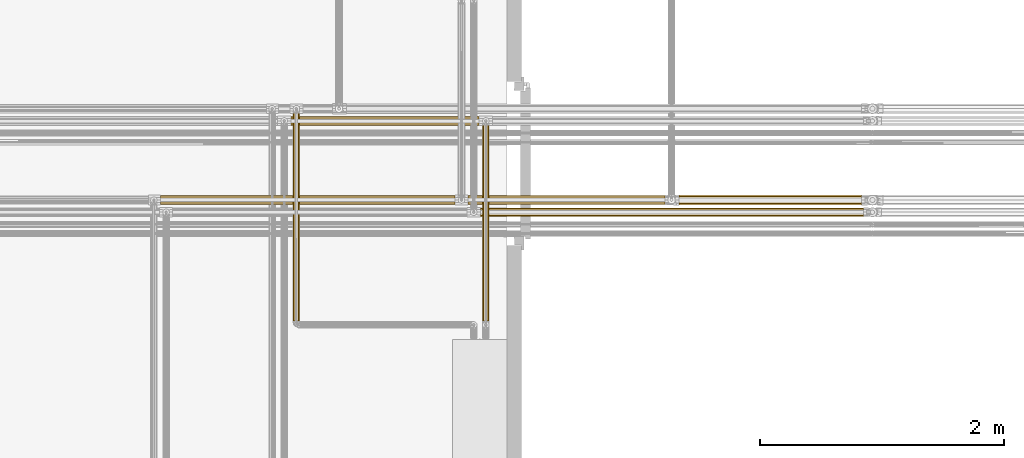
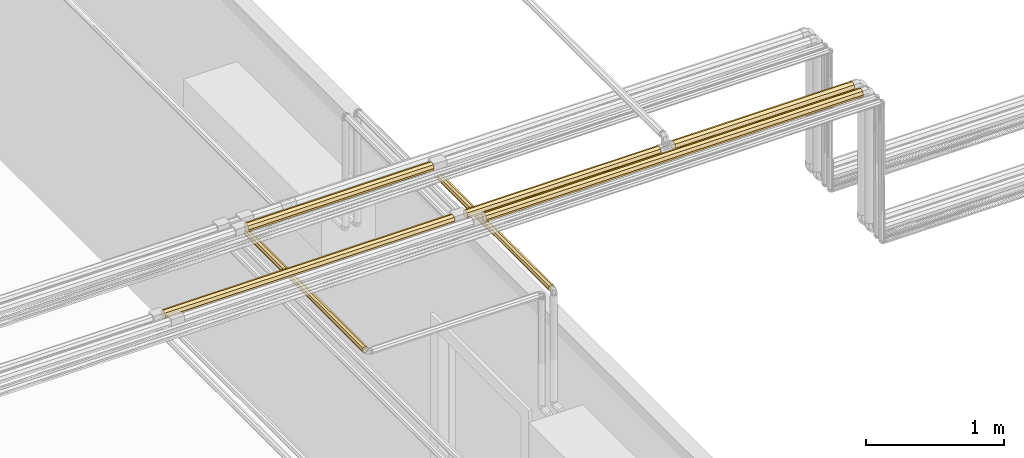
# One storey, part 105 of 652: 7 coverings.
"""IFC2X3 building model written with IfcOpenShell, lengths in millimetres."""

from ifc_helpers import new_model, entity, si_unit, converted_unit, direction, frame, origin, place, context, subcontext, project, spatial, faceted_brep, material, type_object, element, save


model = new_model("IFC2X3")

# Units and contexts
model_context = context("Model", 3, precision=0.01, world=frame((0.0, 0.0, 308426.39999999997)), true_north=direction((6.123233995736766e-17, 1.0)))
plan_context = context("Plan", 3, precision=0.01, world=frame((0.0, 0.0, 308426.39999999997)), true_north=direction((6.123233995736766e-17, 1.0)))
body_context = subcontext(model_context, "Body", "Model", "MODEL_VIEW")
ifc_project = project(units=[si_unit("LENGTHUNIT", "METRE", prefix="MILLI"), si_unit("AREAUNIT", "SQUARE_METRE"), si_unit("VOLUMEUNIT", "CUBIC_METRE"), converted_unit("PLANEANGLEUNIT", "DEGREE", entity("IfcPlaneAngleMeasure", 0.017453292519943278), si_unit("PLANEANGLEUNIT", "RADIAN"), dimensions=[0, 0, 0, 0, 0, 0, 0])], contexts=[model_context, plan_context])

# Site, building, storey
site_placement = place(None, origin())
site = spatial("IfcSite", under=ifc_project, at=site_placement, Name="Default", CompositionType="ELEMENT")
building_placement = place(site_placement, origin())
building = spatial("IfcBuilding", under=site, at=building_placement, CompositionType="ELEMENT")
storey_placement = place(building_placement, frame((0.0, 0.0, 1730.6999999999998)))
storey = spatial("IfcBuildingStorey", under=building, at=storey_placement, Name="EG_Produktion_FFB", CompositionType="ELEMENT", Elevation=1730.6999999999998)

# Coverings
ifc_material = material(Name="Dämmung - Armaflex-Schlauch")
covering_type = type_object("IfcCoveringType", Name="Rohrdämmung außen:Armaflex-Schlauch", PredefinedType="INSULATION")
covering_1_placement = place(storey_placement, frame((66279.93801735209, 40736.94222776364, 3761.9422277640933)))
element("IfcCovering", 1, at=covering_1_placement, inside=storey, type_object=covering_type, material=ifc_material, Name="Rohrdämmung außen:Armaflex-Schlauch", ObjectType="Rohrdämmung außen:Armaflex-Schlauch", PredefinedType="INSULATION", context=body_context, shape_type="Brep", body=[
    faceted_brep([(0.0, 1.5952722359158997, 38.057772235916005), (0.0, 4.140157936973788, 44.20166981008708), (0.0, 6.935081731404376, 50.949212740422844), (0.0, 9.604986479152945, 57.3949329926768), (0.0, 12.274891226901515, 63.84065324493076), (0.0, 18.72061147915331, 66.51055799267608), (0.0, 25.166331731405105, 69.18046274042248), (0.0, 31.612051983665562, 71.85036748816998), (0.0, 38.057772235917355, 74.52027223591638), (0.0, 44.20166981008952, 71.9753865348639), (0.0, 50.94921274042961, 69.18046274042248), (0.0, 57.394932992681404, 66.51055799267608), (0.0, 63.8406532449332, 63.84065324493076), (0.0, 66.51055799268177, 57.39493299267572), (0.0, 69.18046274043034, 50.949212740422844), (0.0, 71.8503674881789, 44.50349248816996), (0.0, 74.52027223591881, 38.057772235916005), (0.0, 71.8503674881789, 31.61205198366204), (0.0, 69.18046274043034, 25.166331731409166), (0.0, 66.51055799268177, 18.720611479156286), (0.0, 63.8406532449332, 12.274891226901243), (0.0, 57.394932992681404, 9.604986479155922), (0.0, 50.94921274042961, 6.935081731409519), (0.0, 44.50349248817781, 4.265176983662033), (0.0, 38.057772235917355, 1.595272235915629), (0.0, 31.913874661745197, 4.140157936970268), (0.0, 25.166331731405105, 6.935081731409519), (0.0, 18.72061147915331, 9.604986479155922), (0.0, 12.274891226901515, 12.274891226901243), (0.0, 9.604986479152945, 18.720611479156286), (0.0, 6.935081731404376, 25.166331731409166), (0.0, 4.265176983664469, 31.61205198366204), (3145.9777326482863, 18.72061147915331, 9.604986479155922), (3145.9777326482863, 25.166331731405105, 6.935081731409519), (3145.9777326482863, 31.612051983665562, 4.265176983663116), (3145.9777326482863, 38.057772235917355, 1.595272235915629), (3145.9777326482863, 44.201669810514, 4.140157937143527), (3145.9777326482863, 50.34556738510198, 6.685043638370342), (3145.977732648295, 57.09311031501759, 9.479967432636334), (3145.9777326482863, 63.8406532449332, 12.274891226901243), (3145.9777326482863, 66.51055799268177, 18.720611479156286), (3145.9777326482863, 69.18046274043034, 25.166331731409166), (3145.9777326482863, 71.8503674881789, 31.61205198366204), (3145.9777326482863, 74.52027223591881, 38.057772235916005), (3145.9777326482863, 71.97538653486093, 44.20166981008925), (3145.9777326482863, 69.4305008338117, 50.345567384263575), (3145.9777326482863, 66.63557703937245, 57.09311031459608), (3145.9777326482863, 63.8406532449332, 63.84065324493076), (3145.9777326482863, 57.394932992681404, 66.51055799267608), (3145.9777326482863, 50.94921274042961, 69.18046274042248), (3145.9777326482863, 44.50349248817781, 71.85036748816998), (3145.9777326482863, 38.057772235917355, 74.52027223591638), (3145.9777326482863, 31.913874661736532, 71.97538653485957), (3145.9777326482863, 25.76997708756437, 69.43050083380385), (3145.9777326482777, 19.022434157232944, 66.63557703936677), (3145.9777326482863, 12.274891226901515, 63.84065324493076), (3145.9777326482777, 9.604986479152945, 57.3949329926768), (3145.9777326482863, 6.935081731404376, 50.949212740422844), (3145.9777326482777, 4.265176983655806, 44.50349248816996), (3145.9777326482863, 1.5952722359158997, 38.057772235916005), (3145.9777326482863, 4.14015793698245, 31.913874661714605), (3145.9777326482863, 6.685043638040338, 25.769977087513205), (3145.9777326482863, 9.479967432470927, 19.022434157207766), (3145.9777326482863, 12.274891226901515, 12.274891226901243)], [[[0, 1, 2, 3, 4, 5, 6, 7, 8, 9, 10, 11, 12, 13, 14, 15, 16, 17, 18, 19, 20, 21, 22, 23, 24, 25, 26, 27, 28, 29, 30, 31]], [[32, 33, 34, 35, 36, 37, 38, 39, 40, 41, 42, 43, 44, 45, 46, 47, 48, 49, 50, 51, 52, 53, 54, 55, 56, 57, 58, 59, 60, 61, 62, 63]], [[41, 40, 39, 20, 19, 18, 17, 16, 43, 42]], [[37, 36, 35, 24, 23, 22, 21, 20, 39, 38]], [[25, 24, 35, 34, 33, 32, 63, 28, 27, 26]], [[28, 63, 62, 61, 60, 59, 0, 31, 30, 29]], [[1, 0, 59, 58, 57, 56, 55, 4, 3, 2]], [[4, 55, 54, 53, 52, 51, 8, 7, 6, 5]], [[9, 8, 51, 50, 49, 48, 47, 12, 11, 10]], [[12, 47, 46, 45, 44, 43, 16, 15, 14, 13]]]),
])
covering_2_placement = place(storey_placement, frame((64724.44724999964, 41486.94067746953, 3838.057772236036)))
element("IfcCovering", 2, at=covering_2_placement, inside=storey, type_object=covering_type, material=ifc_material, Name="Rohrdämmung außen:Armaflex-Schlauch", ObjectType="Rohrdämmung außen:Armaflex-Schlauch", PredefinedType="INSULATION", context=body_context, shape_type="Brep", body=[
    faceted_brep([(1546.5962673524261, 74.52027223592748, -38.057772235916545), (1546.5962673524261, 71.93195816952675, -31.809029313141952), (1546.5962673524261, 69.180462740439, -25.166331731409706), (1546.5962673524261, 66.51055799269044, -18.720611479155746), (1546.5962673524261, 63.84065324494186, -12.274891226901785), (1546.5962673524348, 57.394932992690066, -9.604986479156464), (1546.5962673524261, 50.94921274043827, -6.935081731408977), (1546.5962673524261, 44.503492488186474, -4.265176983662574), (1546.5962673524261, 38.057772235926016, -1.5952722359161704), (1546.5962673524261, 31.809029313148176, -4.183586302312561), (1546.5962673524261, 25.166331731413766, -6.935081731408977), (1546.5962673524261, 18.72061147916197, -9.60498647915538), (1546.5962673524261, 12.274891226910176, -12.274891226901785), (1546.5962673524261, 9.604986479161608, -18.720611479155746), (1546.5962673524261, 6.935081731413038, -25.166331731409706), (1546.5962673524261, 4.265176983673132, -31.612051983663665), (1546.5962673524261, 1.5952722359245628, -38.057772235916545), (1546.5962673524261, 4.265176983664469, -44.50349248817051), (1546.5962673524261, 6.935081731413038, -50.949212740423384), (1546.5962673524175, 9.604986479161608, -57.39493299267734), (1546.5962673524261, 12.274891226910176, -63.8406532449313), (1546.5962673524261, 18.72061147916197, -66.51055799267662), (1546.5962673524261, 25.166331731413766, -69.1804627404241), (1546.5962673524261, 31.612051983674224, -71.85036748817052), (1546.5962673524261, 38.057772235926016, -74.52027223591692), (1546.5962673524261, 44.30651515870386, -71.93195816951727), (1546.5962673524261, 50.94921274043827, -69.1804627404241), (1546.5962673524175, 57.394932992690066, -66.5105579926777), (1546.5962673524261, 63.84065324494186, -63.8406532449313), (1546.5962673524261, 66.51055799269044, -57.39493299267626), (1546.5962673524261, 69.180462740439, -50.949212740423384), (1546.5962673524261, 71.85036748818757, -44.50349248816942), (0.0, 57.39493299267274, -66.5105579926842), (0.0, 50.94921274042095, -69.18046274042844), (0.0, 44.50349248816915, -71.85036748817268), (0.0, 38.057772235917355, -74.5202722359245), (0.0, 31.809029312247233, -71.93195816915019), (0.0, 25.560286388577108, -69.34364410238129), (0.0, 18.91758880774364, -66.5921486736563), (0.0, 12.274891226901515, -63.840653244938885), (0.0, 9.604986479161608, -57.39493299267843), (0.0, 6.935081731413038, -50.94921274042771), (0.0, 4.265176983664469, -44.50349248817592), (0.0, 1.5952722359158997, -38.057772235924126), (0.0, 4.183586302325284, -31.809029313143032), (0.0, 6.7719003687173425, -25.56028639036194), (0.0, 9.523395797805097, -18.917588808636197), (0.0, 12.274891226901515, -12.274891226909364), (0.0, 18.72061147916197, -9.604986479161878), (0.0, 25.166331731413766, -6.935081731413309), (0.0, 31.612051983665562, -4.26517698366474), (0.0, 38.057772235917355, -1.5952722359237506), (0.0, 44.30651515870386, -4.183586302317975), (0.0, 50.555258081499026, -6.77190036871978), (0.0, 57.19795566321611, -9.523395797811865), (0.0, 63.8406532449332, -12.274891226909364), (0.0, 66.51055799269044, -18.72061147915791), (0.0, 69.180462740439, -25.166331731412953), (0.0, 71.8503674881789, -31.612051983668), (0.0, 74.52027223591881, -38.057772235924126), (0.0, 71.93195816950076, -44.30651515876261), (0.0, 69.34364410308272, -50.55525808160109), (0.0, 66.59214867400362, -57.19795566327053), (0.0, 63.8406532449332, -63.840653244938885)], [[[0, 1, 2, 3, 4, 5, 6, 7, 8, 9, 10, 11, 12, 13, 14, 15, 16, 17, 18, 19, 20, 21, 22, 23, 24, 25, 26, 27, 28, 29, 30, 31]], [[32, 33, 34, 35, 36, 37, 38, 39, 40, 41, 42, 43, 44, 45, 46, 47, 48, 49, 50, 51, 52, 53, 54, 55, 56, 57, 58, 59, 60, 61, 62, 63]], [[41, 40, 39, 20, 19, 18, 17, 16, 43, 42]], [[37, 36, 35, 24, 23, 22, 21, 20, 39, 38]], [[25, 24, 35, 34, 33, 32, 63, 28, 27, 26]], [[28, 63, 62, 61, 60, 59, 0, 31, 30, 29]], [[1, 0, 59, 58, 57, 56, 55, 4, 3, 2]], [[4, 55, 54, 53, 52, 51, 8, 7, 6, 5]], [[9, 8, 51, 50, 49, 48, 47, 12, 11, 10]], [[12, 47, 46, 45, 44, 43, 16, 15, 14, 13]]]),
])
covering_3_placement = place(storey_placement, frame((66179.93801735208, 40836.94222776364, 3761.942227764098)))
element("IfcCovering", 3, at=covering_3_placement, inside=storey, type_object=covering_type, material=ifc_material, Name="Rohrdämmung außen:Armaflex-Schlauch", ObjectType="Rohrdämmung außen:Armaflex-Schlauch", PredefinedType="INSULATION", context=body_context, shape_type="Brep", body=[
    faceted_brep([(0.0, 1.5952722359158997, 38.05777223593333), (0.0, 4.0730144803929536, 44.039571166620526), (0.0, 6.935081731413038, 50.94921274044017), (0.0, 9.604986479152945, 57.39493299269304), (0.0, 12.274891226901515, 63.840653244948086), (0.0, 18.72061147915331, 66.5105579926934), (0.0, 25.166331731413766, 69.18046274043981), (0.0, 31.612051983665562, 71.8503674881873), (0.0, 38.057772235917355, 74.5202722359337), (0.0, 44.03957116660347, 72.04252999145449), (0.0, 50.94921274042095, 69.18046274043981), (0.0, 57.394932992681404, 66.5105579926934), (0.0, 63.8406532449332, 63.840653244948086), (0.0, 66.51055799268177, 57.39493299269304), (0.0, 69.18046274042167, 50.94921274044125), (0.0, 71.85036748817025, 44.50349248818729), (0.0, 74.52027223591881, 38.05777223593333), (0.0, 71.85036748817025, 31.61205198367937), (0.0, 69.18046274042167, 25.16633173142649), (0.0, 66.51055799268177, 18.720611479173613), (0.0, 63.8406532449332, 12.27489122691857), (0.0, 57.39493299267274, 9.604986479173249), (0.0, 50.94921274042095, 6.935081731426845), (0.0, 44.50349248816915, 4.265176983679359), (0.0, 38.057772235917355, 1.595272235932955), (0.0, 32.07597330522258, 4.073014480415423), (0.0, 25.166331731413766, 6.935081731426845), (0.0, 18.72061147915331, 9.604986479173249), (0.0, 12.274891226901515, 12.27489122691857), (0.0, 9.604986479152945, 18.720611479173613), (0.0, 6.935081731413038, 25.16633173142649), (0.0, 4.265176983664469, 31.61205198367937), (1615.6147326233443, 18.72061147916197, 9.604986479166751), (1615.6147326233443, 25.166331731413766, 6.935081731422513), (1615.6147326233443, 31.612051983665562, 4.265176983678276), (1615.6147326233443, 38.057772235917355, 1.595272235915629), (1615.6147326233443, 44.03957116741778, 4.073014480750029), (1615.6147326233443, 50.02137009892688, 6.550756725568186), (1615.6147326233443, 56.93101167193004, 9.412823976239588), (1615.6147326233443, 63.8406532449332, 12.274891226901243), (1615.6147326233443, 66.5105579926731, 18.720611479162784), (1615.6147326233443, 69.18046274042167, 25.166331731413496), (1615.6147326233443, 71.85036748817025, 31.61205198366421), (1615.6147326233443, 74.52027223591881, 38.057772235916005), (1615.6147326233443, 72.04252999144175, 44.03957116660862), (1615.6147326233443, 69.56478774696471, 50.02137009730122), (1615.6147326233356, 66.70272049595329, 56.931011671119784), (1615.6147326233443, 63.8406532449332, 63.84065324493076), (1615.6147326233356, 57.394932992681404, 66.51055799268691), (1615.6147326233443, 50.94921274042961, 69.18046274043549), (1615.614732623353, 44.50349248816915, 71.85036748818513), (1615.6147326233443, 38.057772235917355, 74.52027223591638), (1615.6147326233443, 32.075973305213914, 72.0425299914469), (1615.6147326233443, 26.094174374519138, 69.56478774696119), (1615.614732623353, 19.184532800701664, 66.70272049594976), (1615.6147326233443, 12.274891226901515, 63.84065324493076), (1615.6147326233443, 9.604986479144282, 57.394932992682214), (1615.6147326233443, 6.935081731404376, 50.94921274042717), (1615.6147326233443, 4.265176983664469, 44.50349248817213), (1615.6147326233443, 1.5952722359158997, 38.057772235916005), (1615.6147326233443, 4.0730144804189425, 32.075973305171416), (1615.6147326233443, 6.5507567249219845, 26.094174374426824), (1615.6147326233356, 9.412823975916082, 19.184532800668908), (1615.6147326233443, 12.274891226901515, 12.274891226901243)], [[[0, 1, 2, 3, 4, 5, 6, 7, 8, 9, 10, 11, 12, 13, 14, 15, 16, 17, 18, 19, 20, 21, 22, 23, 24, 25, 26, 27, 28, 29, 30, 31]], [[32, 33, 34, 35, 36, 37, 38, 39, 40, 41, 42, 43, 44, 45, 46, 47, 48, 49, 50, 51, 52, 53, 54, 55, 56, 57, 58, 59, 60, 61, 62, 63]], [[41, 40, 39, 20, 19, 18, 17, 16, 43, 42]], [[37, 36, 35, 24, 23, 22, 21, 20, 39, 38]], [[25, 24, 35, 34, 33, 32, 63, 28, 27, 26]], [[28, 63, 62, 61, 60, 59, 0, 31, 30, 29]], [[1, 0, 59, 58, 57, 56, 55, 4, 3, 2]], [[4, 55, 54, 53, 52, 51, 8, 7, 6, 5]], [[9, 8, 51, 50, 49, 48, 47, 12, 11, 10]], [[12, 47, 46, 45, 44, 43, 16, 15, 14, 13]]]),
])
covering_4_placement = place(storey_placement, frame((63654.44724999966, 40836.94222776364, 3761.942227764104)))
element("IfcCovering", 4, at=covering_4_placement, inside=storey, type_object=covering_type, material=ifc_material, Name="Rohrdämmung außen:Armaflex-Schlauch", ObjectType="Rohrdämmung außen:Armaflex-Schlauch", PredefinedType="INSULATION", context=body_context, shape_type="Brep", body=[
    faceted_brep([(2416.596267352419, 74.52027223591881, 38.05777223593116), (2416.596267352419, 71.20728452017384, 46.0560321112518), (2416.596267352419, 69.18046274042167, 50.949212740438), (2416.5962673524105, 66.5105579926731, 57.394932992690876), (2416.596267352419, 63.8406532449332, 63.84065324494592), (2416.5962673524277, 57.39493299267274, 66.51055799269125), (2416.596267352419, 50.94921274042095, 69.18046274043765), (2416.5962673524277, 44.50349248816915, 71.85036748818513), (2416.596267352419, 38.057772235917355, 74.52027223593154), (2416.5962673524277, 30.059512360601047, 71.20728452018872), (2416.596267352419, 25.166331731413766, 69.18046274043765), (2416.5962673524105, 18.72061147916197, 66.51055799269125), (2416.596267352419, 12.274891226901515, 63.84065324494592), (2416.5962673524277, 9.604986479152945, 57.39493299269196), (2416.596267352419, 6.935081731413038, 50.949212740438), (2416.5962673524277, 4.265176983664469, 44.503492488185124), (2416.596267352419, 1.5952722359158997, 38.05777223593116), (2416.596267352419, 4.265176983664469, 31.6120519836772), (2416.596267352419, 6.935081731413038, 25.166331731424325), (2416.596267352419, 9.604986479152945, 18.720611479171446), (2416.596267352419, 12.274891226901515, 12.274891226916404), (2416.596267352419, 18.72061147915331, 9.604986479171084), (2416.596267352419, 25.166331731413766, 6.935081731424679), (2416.596267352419, 31.612051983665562, 4.265176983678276), (2416.596267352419, 38.057772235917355, 1.5952722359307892), (2416.5962673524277, 46.056032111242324, 4.908259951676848), (2416.596267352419, 50.94921274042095, 6.935081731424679), (2416.5962673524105, 57.39493299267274, 9.604986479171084), (2416.596267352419, 63.8406532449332, 12.274891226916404), (2416.5962673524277, 66.5105579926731, 18.720611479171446), (2416.596267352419, 69.18046274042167, 25.166331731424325), (2416.5962673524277, 71.85036748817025, 31.612051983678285), (0.0, 57.394932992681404, 9.604986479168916), (0.0, 50.94921274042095, 6.935081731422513), (0.0, 44.50349248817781, 4.26517698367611), (0.0, 38.057772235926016, 1.595272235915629), (0.0, 30.059512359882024, 4.908259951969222), (0.0, 22.061252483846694, 8.221247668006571), (0.0, 12.274891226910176, 12.274891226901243), (0.0, 9.604986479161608, 18.720611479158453), (0.0, 6.935081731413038, 25.166331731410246), (0.0, 4.265176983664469, 31.612051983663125), (0.0, 1.5952722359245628, 38.057772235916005), (0.0, 4.908259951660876, 46.056032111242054), (0.0, 8.221247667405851, 54.05429198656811), (0.0, 12.274891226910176, 63.84065324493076), (0.0, 18.72061147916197, 66.51055799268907), (0.0, 25.166331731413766, 69.18046274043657), (0.0, 31.612051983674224, 71.85036748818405), (0.0, 38.057772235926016, 74.52027223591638), (0.0, 46.05603211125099, 71.20728452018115), (0.0, 54.05429198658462, 67.89429680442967), (0.0, 63.84065324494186, 63.84065324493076), (0.0, 66.51055799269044, 57.39493299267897), (0.0, 69.18046274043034, 50.949212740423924), (0.0, 71.85036748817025, 44.50349248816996), (0.0, 74.52027223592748, 38.057772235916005), (0.0, 71.2072845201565, 30.05951236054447), (0.0, 67.89429680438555, 22.061252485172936), (0.0, 63.84065324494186, 12.274891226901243)], [[[0, 1, 2, 3, 4, 5, 6, 7, 8, 9, 10, 11, 12, 13, 14, 15, 16, 17, 18, 19, 20, 21, 22, 23, 24, 25, 26, 27, 28, 29, 30, 31]], [[32, 33, 34, 35, 36, 37, 38, 39, 40, 41, 42, 43, 44, 45, 46, 47, 48, 49, 50, 51, 52, 53, 54, 55, 56, 57, 58, 59]], [[40, 39, 38, 20, 19, 18, 17, 16, 42, 41]], [[38, 37, 36, 35, 24, 23, 22, 21, 20]], [[56, 0, 31, 30, 29, 28, 59, 58, 57]], [[27, 26, 25, 24, 35, 34, 33, 32, 59, 28]], [[49, 8, 7, 6, 5, 4, 52, 51, 50]], [[3, 2, 1, 0, 56, 55, 54, 53, 52, 4]], [[42, 16, 15, 14, 13, 12, 45, 44, 43]], [[11, 10, 9, 8, 49, 48, 47, 46, 45, 12]]]),
])
covering_5_placement = place(storey_placement, frame((67913.14674997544, 40833.767227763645, 3758.767227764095)))
element("IfcCovering", 5, at=covering_5_placement, inside=storey, type_object=covering_type, material=ifc_material, Name="Rohrdämmung außen:Armaflex-Schlauch", ObjectType="Rohrdämmung außen:Armaflex-Schlauch", PredefinedType="INSULATION", context=body_context, shape_type="Brep", body=[
    faceted_brep([(1498.7355000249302, 80.87027223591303, 41.232772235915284), (1498.7355000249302, 77.84294996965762, 48.54137470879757), (1498.7355000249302, 75.0654947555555, 55.24674475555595), (1498.7355000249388, 72.16310601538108, 62.25373101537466), (1498.7355000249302, 69.26071727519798, 69.26071727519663), (1498.7355000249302, 62.25373101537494, 72.16310601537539), (1498.7355000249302, 55.246744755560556, 75.06549475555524), (1498.7355000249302, 48.54137470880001, 77.8429499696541), (1498.7355000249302, 41.23277223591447, 80.87027223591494), (1498.7355000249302, 33.9241697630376, 77.8429499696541), (1498.7355000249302, 27.218799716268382, 75.06549475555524), (1498.7355000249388, 20.211813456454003, 72.16310601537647), (1498.7355000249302, 13.204827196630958, 69.26071727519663), (1498.7355000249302, 10.302438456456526, 62.25373101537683), (1498.7355000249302, 7.400049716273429, 55.24674475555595), (1498.7355000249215, 4.622594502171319, 48.5413747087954), (1498.7355000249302, 1.5952722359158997, 41.232772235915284), (1498.7355000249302, 4.497660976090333, 34.22578597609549), (1498.7355000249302, 7.400049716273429, 27.21879971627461), (1498.7355000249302, 10.302438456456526, 20.211813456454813), (1498.7355000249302, 13.204827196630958, 13.204827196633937), (1498.7355000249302, 20.211813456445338, 10.302438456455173), (1498.7355000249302, 27.218799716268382, 7.4000497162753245), (1498.7355000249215, 33.92416976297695, 4.622594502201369), (1498.7355000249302, 41.23277223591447, 1.595272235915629), (1498.7355000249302, 48.54137470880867, 4.622594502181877), (1498.7355000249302, 55.246744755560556, 7.4000497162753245), (1498.7355000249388, 62.25373101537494, 10.302438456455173), (1498.7355000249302, 69.26071727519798, 13.204827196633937), (1498.7355000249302, 72.1631060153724, 20.211813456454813), (1498.7355000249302, 75.0654947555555, 27.21879971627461), (1498.7355000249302, 77.84294996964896, 33.92416976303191), (0.0, 62.25373101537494, 10.302438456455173), (0.0, 55.246744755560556, 7.4000497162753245), (0.0, 48.23975849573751, 4.497660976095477), (0.0, 41.23277223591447, 1.595272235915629), (0.0, 33.924169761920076, 4.622594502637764), (0.0, 26.615567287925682, 7.649916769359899), (0.0, 19.910197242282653, 10.427371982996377), (0.0, 13.204827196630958, 13.204827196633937), (0.0, 10.302438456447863, 20.211813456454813), (0.0, 7.400049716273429, 27.21879971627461), (0.0, 4.497660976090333, 34.22578597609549), (0.0, 1.5952722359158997, 41.232772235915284), (0.0, 4.6225945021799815, 48.541374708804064), (0.0, 7.649916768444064, 55.84997718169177), (0.0, 10.427371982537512, 62.55534722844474), (0.0, 13.204827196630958, 69.26071727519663), (0.0, 20.211813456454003, 72.16310601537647), (0.0, 27.218799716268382, 75.06549475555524), (0.0, 34.22578597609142, 77.96788349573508), (0.0, 41.23277223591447, 80.87027223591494), (0.0, 48.54137470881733, 77.84294996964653), (0.0, 55.84997718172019, 74.81562770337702), (0.0, 62.55534722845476, 72.03817248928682), (0.0, 69.26071727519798, 69.26071727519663), (0.0, 72.1631060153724, 62.25373101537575), (0.0, 75.0654947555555, 55.24674475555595), (0.0, 77.9678834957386, 48.239758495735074), (0.0, 80.87027223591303, 41.232772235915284), (0.0, 77.84294996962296, 33.924169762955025), (0.0, 74.81562770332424, 26.615567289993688), (0.0, 72.03817248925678, 19.91019724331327), (0.0, 69.26071727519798, 13.204827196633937)], [[[0, 1, 2, 3, 4, 5, 6, 7, 8, 9, 10, 11, 12, 13, 14, 15, 16, 17, 18, 19, 20, 21, 22, 23, 24, 25, 26, 27, 28, 29, 30, 31]], [[32, 33, 34, 35, 36, 37, 38, 39, 40, 41, 42, 43, 44, 45, 46, 47, 48, 49, 50, 51, 52, 53, 54, 55, 56, 57, 58, 59, 60, 61, 62, 63]], [[41, 40, 39, 20, 19, 18, 17, 16, 43, 42]], [[20, 39, 38, 37, 36, 35, 24, 23, 22, 21]], [[24, 35, 34, 33, 32, 63, 28, 27, 26, 25]], [[28, 63, 62, 61, 60, 59, 0, 31, 30, 29]], [[0, 59, 58, 57, 56, 55, 4, 3, 2, 1]], [[4, 55, 54, 53, 52, 51, 8, 7, 6, 5]], [[8, 51, 50, 49, 48, 47, 12, 11, 10, 9]], [[12, 47, 46, 45, 44, 43, 16, 15, 14, 13]]]),
])
covering_6_placement = place(storey_placement, frame((66296.95799511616, 39881.98374999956, 3671.4672277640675)))
element("IfcCovering", 6, at=covering_6_placement, inside=storey, type_object=covering_type, material=ifc_material, Name="Rohrdämmung außen:Armaflex-Schlauch", ObjectType="Rohrdämmung außen:Armaflex-Schlauch", PredefinedType="INSULATION", context=body_context, shape_type="Brep", body=[
    faceted_brep([(9.485083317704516, 1611.0309497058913, 9.485083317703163), (7.512630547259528, 1611.0309497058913, 14.247005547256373), (5.54017777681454, 1611.0309497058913, 19.008927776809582), (3.567725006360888, 1611.0309497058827, 23.77085000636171), (1.5952722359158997, 1611.0309497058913, 28.532772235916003), (3.173088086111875, 1611.0309497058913, 32.3419566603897), (5.54017777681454, 1611.0309497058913, 38.05661669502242), (7.512630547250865, 1611.0309497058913, 42.818538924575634), (9.485083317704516, 1611.0309497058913, 47.58046115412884), (14.247005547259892, 1611.0309497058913, 49.552913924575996), (19.008927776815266, 1611.0309497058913, 51.525366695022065), (23.77085000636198, 1611.0309497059, 53.49781946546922), (28.532772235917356, 1611.0309497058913, 55.470272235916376), (32.34195666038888, 1611.0309497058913, 53.89245638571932), (38.05661669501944, 1611.0309497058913, 51.525366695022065), (42.818538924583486, 1611.0309497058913, 49.552913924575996), (47.5804611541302, 1611.0309497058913, 47.58046115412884), (49.55291392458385, 1611.0309497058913, 42.818538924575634), (51.525366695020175, 1611.0309497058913, 38.05661669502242), (53.49781946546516, 1611.0309497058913, 33.294694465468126), (55.47027223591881, 1611.0309497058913, 28.532772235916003), (53.497819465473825, 1611.0309497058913, 23.770850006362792), (51.525366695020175, 1611.0309497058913, 19.008927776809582), (49.552913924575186, 1611.0309497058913, 14.247005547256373), (47.5804611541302, 1611.0309497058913, 9.485083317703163), (42.81853892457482, 1611.0309497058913, 7.512630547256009), (38.05661669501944, 1611.0309497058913, 5.540177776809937), (33.29469446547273, 1611.0309497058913, 3.567725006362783), (28.532772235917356, 1611.0309497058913, 1.595272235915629), (24.723587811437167, 1611.0309497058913, 3.17308808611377), (19.008927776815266, 1611.0309497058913, 5.540177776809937), (14.247005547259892, 1611.0309497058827, 7.512630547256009), (47.5804611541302, 0.0, 47.580461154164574), (42.818538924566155, 0.0, 49.55291392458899), (38.05661669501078, 0.0, 51.52536669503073), (33.29469446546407, 0.0, 53.497819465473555), (28.532772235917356, 0.0, 55.47027223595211), (20.91440338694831, 0.0, 52.31464053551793), (15.199743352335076, 0.0, 49.94755084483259), (9.485083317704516, 0.0, 47.580461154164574), (7.512630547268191, 0.0, 42.81853892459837), (5.54017777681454, 0.0, 38.05661669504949), (3.567725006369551, 0.0, 33.29469446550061), (1.5952722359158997, 0.0, 28.532772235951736), (4.750903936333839, 0.0, 20.914403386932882), (7.117993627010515, 0.0, 15.199743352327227), (9.485083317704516, 0.0, 9.485083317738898), (14.247005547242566, 0.0, 7.512630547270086), (19.008927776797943, 0.0, 5.5401777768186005), (23.770850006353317, 0.0, 3.5677250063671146), (28.532772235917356, 0.0, 1.5952722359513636), (36.151141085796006, 0.0, 4.750903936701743), (41.8658011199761, 0.0, 7.117993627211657), (47.5804611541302, 0.0, 9.485083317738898), (49.55291392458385, 0.0, 14.247005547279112), (51.5253666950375, 0.0, 19.008927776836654), (53.497819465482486, 0.0, 23.770850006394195), (55.47027223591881, 0.0, 28.532772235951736), (52.3146405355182, 0.0, 36.15114108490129), (49.94755084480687, 0.0, 41.86580111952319)], [[[0, 1, 2, 3, 4, 5, 6, 7, 8, 9, 10, 11, 12, 13, 14, 15, 16, 17, 18, 19, 20, 21, 22, 23, 24, 25, 26, 27, 28, 29, 30, 31]], [[32, 33, 34, 35, 36, 37, 38, 39, 40, 41, 42, 43, 44, 45, 46, 47, 48, 49, 50, 51, 52, 53, 54, 55, 56, 57, 58, 59]], [[55, 54, 53, 24, 23, 22, 21, 20, 57, 56]], [[51, 50, 28, 27, 26, 25, 24, 53, 52]], [[48, 47, 46, 0, 31, 30, 29, 28, 50, 49]], [[0, 46, 45, 44, 43, 4, 3, 2, 1]], [[41, 40, 39, 8, 7, 6, 5, 4, 43, 42]], [[8, 39, 38, 37, 36, 12, 11, 10, 9]], [[34, 33, 32, 16, 15, 14, 13, 12, 36, 35]], [[16, 32, 59, 58, 57, 20, 19, 18, 17]]]),
])
covering_7_placement = place(storey_placement, frame((64741.46722776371, 39881.983749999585, 3671.4672277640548)))
element("IfcCovering", 7, at=covering_7_placement, inside=storey, type_object=covering_type, material=ifc_material, Name="Rohrdämmung außen:Armaflex-Schlauch", ObjectType="Rohrdämmung außen:Armaflex-Schlauch", PredefinedType="INSULATION", context=body_context, shape_type="Brep", body=[
    faceted_brep([(9.485083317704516, 0.0, 47.580461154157), (7.512630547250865, 0.0, 42.818538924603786), (5.540177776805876, 0.0, 38.05661669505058), (3.567725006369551, 0.0, 33.294694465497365), (1.5952722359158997, 0.0, 28.532772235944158), (3.567725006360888, 0.0, 23.770850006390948), (5.540177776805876, 0.0, 19.008927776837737), (7.512630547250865, 0.0, 14.247005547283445), (9.485083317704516, 0.0, 9.485083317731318), (14.247005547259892, 0.0, 7.5126305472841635), (19.008927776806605, 0.0, 5.5401777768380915), (23.77085000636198, 0.0, 3.567725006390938), (28.532772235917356, 0.0, 1.5952722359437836), (32.11933155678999, 0.0, 3.080873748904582), (38.056616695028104, 0.0, 5.5401777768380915), (42.81853892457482, 0.0, 7.5126305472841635), (47.5804611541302, 0.0, 9.485083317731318), (49.552913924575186, 0.0, 14.247005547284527), (51.525366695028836, 0.0, 19.008927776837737), (53.49781946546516, 0.0, 23.770850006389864), (55.47027223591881, 0.0, 28.532772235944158), (53.984670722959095, 0.0, 32.11933155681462), (51.525366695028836, 0.0, 38.05661669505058), (49.552913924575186, 0.0, 42.818538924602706), (47.5804611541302, 0.0, 47.580461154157), (42.81853892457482, 0.0, 49.55291392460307), (38.056616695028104, 0.0, 51.525366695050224), (33.29469446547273, 0.0, 53.49781946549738), (28.532772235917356, 0.0, 55.47027223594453), (24.94621291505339, 0.0, 53.984670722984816), (19.008927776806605, 0.0, 51.525366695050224), (14.247005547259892, 0.0, 49.55291392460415), (47.58046115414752, 1711.0309497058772, 9.485083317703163), (42.81853892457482, 1711.0309497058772, 7.5126305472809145), (38.056616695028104, 1711.0309497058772, 5.5401777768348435), (33.29469446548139, 1711.0309497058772, 3.567725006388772), (28.532772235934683, 1711.0309497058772, 1.595272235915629), (21.359653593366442, 1711.0309497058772, 4.566475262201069), (15.422368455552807, 1711.0309497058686, 7.025779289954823), (9.485083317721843, 1711.0309497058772, 9.485083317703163), (7.512630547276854, 1711.0309497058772, 14.247005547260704), (5.540177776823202, 1711.0309497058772, 19.008927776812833), (3.567725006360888, 1711.0309497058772, 23.770850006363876), (1.5952722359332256, 1711.0309497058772, 28.532772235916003), (4.566475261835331, 1711.0309497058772, 35.70589087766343), (7.025779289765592, 1711.0309497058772, 41.64317601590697), (9.485083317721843, 1711.0309497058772, 47.58046115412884), (14.247005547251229, 1711.0309497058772, 49.55291392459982), (19.008927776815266, 1711.0309497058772, 51.525366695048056), (23.770850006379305, 1711.0309497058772, 53.49781946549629), (28.532772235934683, 1711.0309497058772, 55.470272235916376), (35.7058908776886, 1711.0309497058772, 52.4990692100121), (41.643176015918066, 1711.0309497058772, 50.03976518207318), (47.58046115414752, 1711.0309497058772, 47.58046115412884), (49.55291392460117, 1711.0309497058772, 42.81853892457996), (51.5253666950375, 1711.0309497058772, 38.05661669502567), (53.497819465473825, 1711.0309497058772, 33.29469446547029), (55.470272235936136, 1711.0309497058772, 28.532772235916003), (52.49906920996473, 1711.0309497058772, 21.35965359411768), (50.03976518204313, 1711.0309497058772, 15.422368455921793)], [[[0, 1, 2, 3, 4, 5, 6, 7, 8, 9, 10, 11, 12, 13, 14, 15, 16, 17, 18, 19, 20, 21, 22, 23, 24, 25, 26, 27, 28, 29, 30, 31]], [[32, 33, 34, 35, 36, 37, 38, 39, 40, 41, 42, 43, 44, 45, 46, 47, 48, 49, 50, 51, 52, 53, 54, 55, 56, 57, 58, 59]], [[41, 40, 39, 8, 7, 6, 5, 4, 43, 42]], [[37, 36, 12, 11, 10, 9, 8, 39, 38]], [[34, 33, 32, 16, 15, 14, 13, 12, 36, 35]], [[16, 32, 59, 58, 57, 20, 19, 18, 17]], [[55, 54, 53, 24, 23, 22, 21, 20, 57, 56]], [[24, 53, 52, 51, 50, 28, 27, 26, 25]], [[48, 47, 46, 0, 31, 30, 29, 28, 50, 49]], [[0, 46, 45, 44, 43, 4, 3, 2, 1]]]),
])

save(model, "model.ifc")
